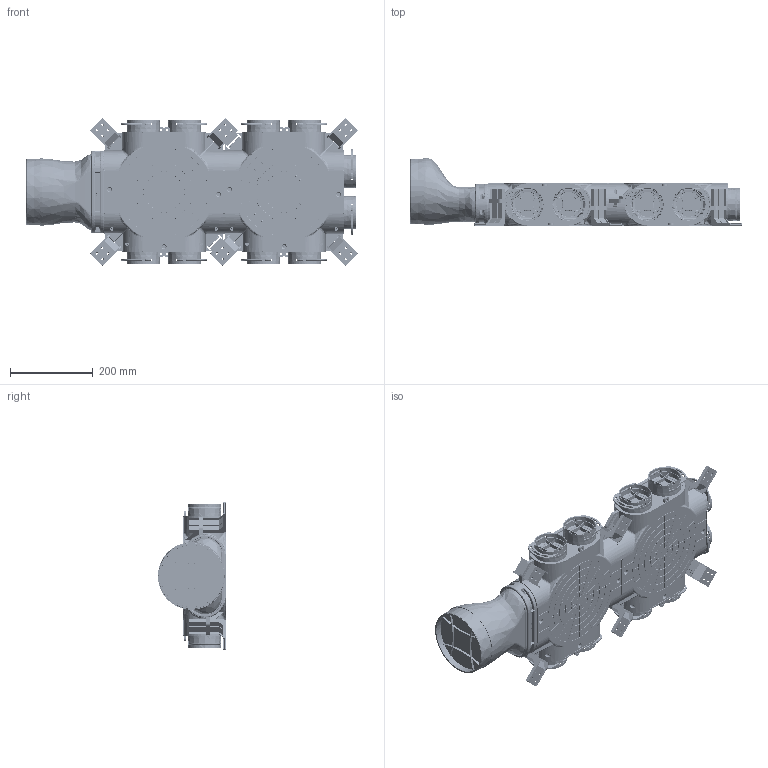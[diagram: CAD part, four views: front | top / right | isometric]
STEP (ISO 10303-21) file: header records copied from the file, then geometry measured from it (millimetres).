
FILE_DESCRIPTION((''),'2;1');
FILE_NAME('VCB160-10_UPR_ASM','2025-12-29T16:07:48',('niepogodzinskij'),(''),'CREO PARAMETRIC BY PTC INC, 2025010','CREO PARAMETRIC BY PTC INC, 2025010','');
FILE_SCHEMA(('CONFIG_CONTROL_DESIGN'));
Products named in the file (7): 0VCBOP_OBUD_VCB_PELNA_1_1_2_3_7; 0VCBP75X2_1_1_2_3_4_5_6_7; 0VPEO_OBEJMA_1_1_2_3_4_5_6_7; 0VBWM_WSPORNIK_VPB_VCB_1_1_2__7; 0VCBP160_PRZYLACZE160_1_1_2_3_5; ASM0001_ASM_1_1_2_3_4_5_6_7_ASM; VCB160-10_UPR_ASM
Assembly tree (19 placements, depth 3):
  VCB160-10_UPR_ASM
    ASM0001_ASM_1_1_2_3_4_5_6_7_ASM
      0VCBOP_OBUD_VCB_PELNA_1_1_2_3_7  x4
      0VCBP75X2_1_1_2_3_4_5_6_7  x5
      0VPEO_OBEJMA_1_1_2_3_4_5_6_7  x2
      0VBWM_WSPORNIK_VPB_VCB_1_1_2__7  x6
      0VCBP160_PRZYLACZE160_1_1_2_3_5
Bounding box: 802.53 x 164.79 x 357.57 mm (x, y, z)
Volume: 17325624.3 mm3; surface area: 1747897.5 mm2
Topology: 18 solids, 23 shells, 9522 faces, 25739 edges, 16207 vertices
Faces by surface type: plane 3850, cylinder 2095, torus 1404, bspline 1206, cone 766, sphere 184, extrusion 17
Entity records: 99825 total; most frequent: CARTESIAN_POINT 43965, ORIENTED_EDGE 12090, DIRECTION 11512, EDGE_CURVE 6045, AXIS2_PLACEMENT_3D 4474, VERTEX_POINT 3836, VECTOR 2564, LINE 2555
